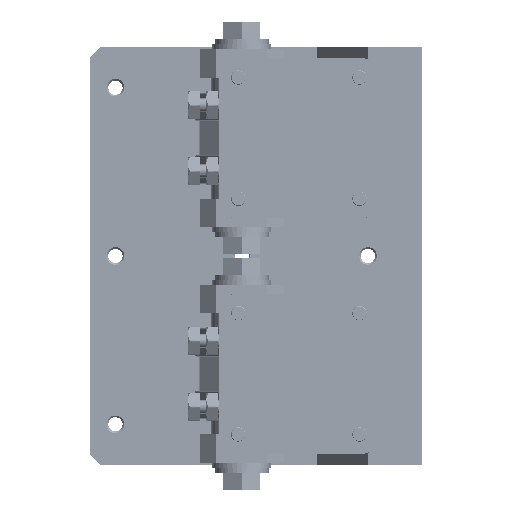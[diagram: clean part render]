
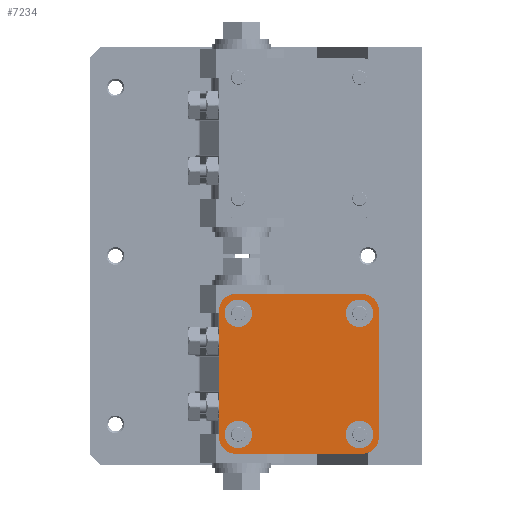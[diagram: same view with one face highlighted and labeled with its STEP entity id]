
A CAD part, front view. The second image highlights one B-rep face of the part: STEP entity #7234.
In plain terms, the highlighted planar face has unit normal (0, -1, 0).
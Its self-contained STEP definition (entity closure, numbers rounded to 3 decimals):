
#2995=FACE_BOUND('',#16304,.T.);
#2996=FACE_BOUND('',#16305,.T.);
#2997=FACE_BOUND('',#16306,.T.);
#2998=FACE_BOUND('',#16307,.T.);
#2999=FACE_BOUND('',#16308,.T.);
#5143=CIRCLE('',#66479,8.15);
#5144=CIRCLE('',#66480,8.15);
#5145=CIRCLE('',#66481,10.);
#5146=CIRCLE('',#66482,10.);
#5147=CIRCLE('',#66483,10.);
#5148=CIRCLE('',#66484,10.);
#5149=CIRCLE('',#66485,8.15);
#5150=CIRCLE('',#66486,8.15);
#7234=ADVANCED_FACE('',(#2995,#2996,#2997,#2998,#2999),#10912,.F.);
#10912=PLANE('',#66487);
#16304=EDGE_LOOP('',(#26505));
#16305=EDGE_LOOP('',(#26506));
#16306=EDGE_LOOP('',(#26507,#26508,#26509,#26510,#26511,#26512,#26513,#26514));
#16307=EDGE_LOOP('',(#26515));
#16308=EDGE_LOOP('',(#26516));
#26505=ORIENTED_EDGE('',*,*,#49191,.F.);
#26506=ORIENTED_EDGE('',*,*,#49192,.F.);
#26507=ORIENTED_EDGE('',*,*,#49193,.F.);
#26508=ORIENTED_EDGE('',*,*,#49194,.F.);
#26509=ORIENTED_EDGE('',*,*,#49195,.T.);
#26510=ORIENTED_EDGE('',*,*,#49196,.F.);
#26511=ORIENTED_EDGE('',*,*,#49087,.T.);
#26512=ORIENTED_EDGE('',*,*,#49197,.F.);
#26513=ORIENTED_EDGE('',*,*,#49198,.F.);
#26514=ORIENTED_EDGE('',*,*,#49199,.F.);
#26515=ORIENTED_EDGE('',*,*,#49200,.F.);
#26516=ORIENTED_EDGE('',*,*,#49201,.T.);
#42590=VERTEX_POINT('',#129305);
#42592=VERTEX_POINT('',#129308);
#42694=VERTEX_POINT('',#129530);
#42695=VERTEX_POINT('',#129532);
#42696=VERTEX_POINT('',#129534);
#42697=VERTEX_POINT('',#129535);
#42698=VERTEX_POINT('',#129537);
#42699=VERTEX_POINT('',#129539);
#42700=VERTEX_POINT('',#129542);
#42701=VERTEX_POINT('',#129544);
#42702=VERTEX_POINT('',#129547);
#42703=VERTEX_POINT('',#129549);
#49087=EDGE_CURVE('',#42592,#42590,#57370,.T.);
#49191=EDGE_CURVE('',#42694,#42694,#5143,.T.);
#49192=EDGE_CURVE('',#42695,#42695,#5144,.T.);
#49193=EDGE_CURVE('',#42696,#42697,#57456,.T.);
#49194=EDGE_CURVE('',#42698,#42696,#5145,.T.);
#49195=EDGE_CURVE('',#42698,#42699,#57457,.T.);
#49196=EDGE_CURVE('',#42592,#42699,#5146,.T.);
#49197=EDGE_CURVE('',#42700,#42590,#5147,.T.);
#49198=EDGE_CURVE('',#42701,#42700,#57458,.T.);
#49199=EDGE_CURVE('',#42697,#42701,#5148,.T.);
#49200=EDGE_CURVE('',#42702,#42702,#5149,.T.);
#49201=EDGE_CURVE('',#42703,#42703,#5150,.T.);
#57370=LINE('',#129307,#61486);
#57456=LINE('',#129533,#61572);
#57457=LINE('',#129538,#61573);
#57458=LINE('',#129543,#61574);
#61486=VECTOR('',#73142,1.);
#61572=VECTOR('',#73268,1.);
#61573=VECTOR('',#73271,1.);
#61574=VECTOR('',#73276,1.);
#66479=AXIS2_PLACEMENT_3D('',#129529,#73264,#73265);
#66480=AXIS2_PLACEMENT_3D('',#129531,#73266,#73267);
#66481=AXIS2_PLACEMENT_3D('',#129536,#73269,#73270);
#66482=AXIS2_PLACEMENT_3D('',#129540,#73272,#73273);
#66483=AXIS2_PLACEMENT_3D('',#129541,#73274,#73275);
#66484=AXIS2_PLACEMENT_3D('',#129545,#73277,#73278);
#66485=AXIS2_PLACEMENT_3D('',#129546,#73279,#73280);
#66486=AXIS2_PLACEMENT_3D('',#129548,#73281,#73282);
#66487=AXIS2_PLACEMENT_3D('',#129550,#73283,#73284);
#73142=DIRECTION('',(1.,0.,0.));
#73264=DIRECTION('',(0.,-1.,0.));
#73265=DIRECTION('',(0.,0.,1.));
#73266=DIRECTION('',(0.,-1.,0.));
#73267=DIRECTION('',(0.,0.,1.));
#73268=DIRECTION('',(1.,0.,0.));
#73269=DIRECTION('',(0.,1.,0.));
#73270=DIRECTION('',(1.,0.,0.));
#73271=DIRECTION('',(0.,0.,-1.));
#73272=DIRECTION('',(0.,1.,0.));
#73273=DIRECTION('',(1.,0.,0.));
#73274=DIRECTION('',(0.,1.,0.));
#73275=DIRECTION('',(1.,0.,0.));
#73276=DIRECTION('',(0.,0.,-1.));
#73277=DIRECTION('',(0.,1.,0.));
#73278=DIRECTION('',(1.,0.,0.));
#73279=DIRECTION('',(0.,-1.,0.));
#73280=DIRECTION('',(0.,0.,1.));
#73281=DIRECTION('',(0.,1.,0.));
#73282=DIRECTION('',(0.,0.,1.));
#73283=DIRECTION('',(0.,1.,0.));
#73284=DIRECTION('',(1.,0.,0.));
#129305=CARTESIAN_POINT('',(71.5,-258.,-49.5));
#129307=CARTESIAN_POINT('',(81.5,-258.,-49.5));
#129308=CARTESIAN_POINT('',(-3.5,-258.,-49.5));
#129529=CARTESIAN_POINT('',(-2.,-258.,-38.));
#129530=CARTESIAN_POINT('',(-2.,-258.,-29.85));
#129531=CARTESIAN_POINT('',(-2.,-258.,34.));
#129532=CARTESIAN_POINT('',(-2.,-258.,42.15));
#129533=CARTESIAN_POINT('',(-16.,-258.,45.5));
#129534=CARTESIAN_POINT('',(-3.5,-258.,45.5));
#129535=CARTESIAN_POINT('',(71.5,-258.,45.5));
#129536=CARTESIAN_POINT('',(-3.5,-258.,35.5));
#129537=CARTESIAN_POINT('',(-13.5,-258.,35.5));
#129538=CARTESIAN_POINT('',(-13.5,-258.,45.5));
#129539=CARTESIAN_POINT('',(-13.5,-258.,-39.5));
#129540=CARTESIAN_POINT('',(-3.5,-258.,-39.5));
#129541=CARTESIAN_POINT('',(71.5,-258.,-39.5));
#129542=CARTESIAN_POINT('',(81.5,-258.,-39.5));
#129543=CARTESIAN_POINT('',(81.5,-258.,45.5));
#129544=CARTESIAN_POINT('',(81.5,-258.,35.5));
#129545=CARTESIAN_POINT('',(71.5,-258.,35.5));
#129546=CARTESIAN_POINT('',(70.,-258.,-38.));
#129547=CARTESIAN_POINT('',(70.,-258.,-29.85));
#129548=CARTESIAN_POINT('',(70.,-258.,34.));
#129549=CARTESIAN_POINT('',(70.,-258.,42.15));
#129550=CARTESIAN_POINT('',(-16.,-258.,45.5));
